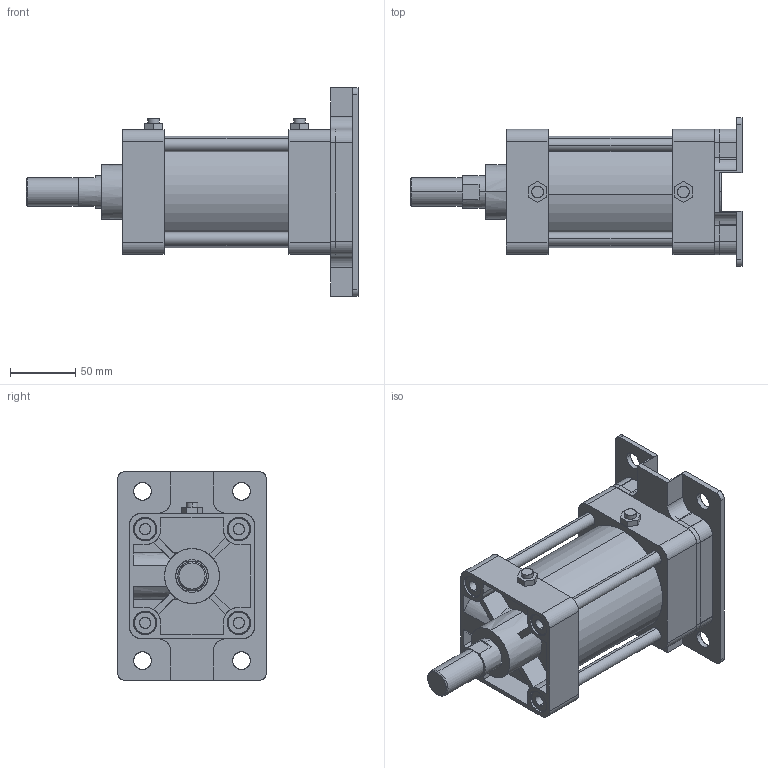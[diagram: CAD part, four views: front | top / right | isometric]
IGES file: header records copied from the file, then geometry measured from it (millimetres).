
Start section: SolidWorks IGES file using analytic representation for surfaces
Global section: file name: C:\Users\Toshiba\Desktop\KG2-80-50-B.IGS; native system: SolidWorks 2014; preprocessor: SolidWorks 2014; author: Toshiba; date: 160401.161859; units: millimetre
Bounding box: 255 x 114 x 160 mm (x, y, z)
Surface area: 220837.5 mm2 (no closed solid volume)
Topology: 0 solids, 0 shells, 377 faces, 6038 edges, 6034 vertices
Faces by surface type: bspline 195, revolution 182
